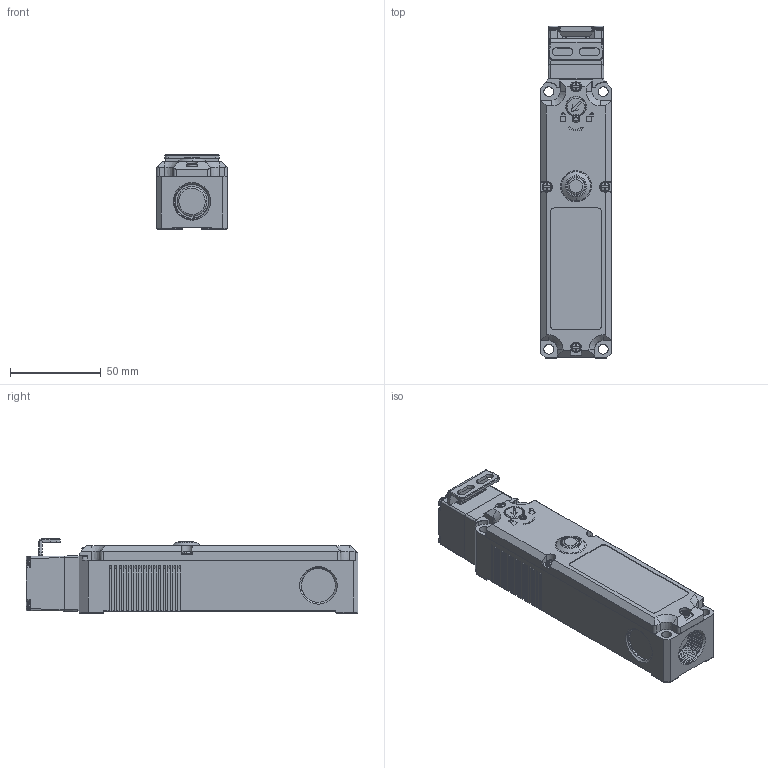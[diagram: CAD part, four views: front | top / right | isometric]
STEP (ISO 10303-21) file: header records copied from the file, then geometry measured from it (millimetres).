
FILE_DESCRIPTION((''),'2;1');
FILE_NAME('ASM-ALL-4YD_ASM_97_ASM_ASM','2022-08-13T',('Administrator'),(''),'PRO/ENGINEER BY PARAMETRIC TECHNOLOGY CORPORATION, 2010280','PRO/ENGINEER BY PARAMETRIC TECHNOLOGY CORPORATION, 2010280','');
FILE_SCHEMA(('CONFIG_CONTROL_DESIGN'));
Products named in the file (14): 4YD-KETI_80; LS25-6_1; WANYAOSHI_7_1_1; LUOSI-3_1_1_1; QIANZUO-NEW_2_2; BEIGAI-NEW_1_1; ASM_TOP_ASM_2_ASM_ASM; LS3-8_1; 4YD-JIESUOXUANNIU_17; BACK-JIESUO_20; 4YD-SHANGGAI_31; LS25-4_3; LED-GAI_1; ASM-ALL-4YD_ASM_97_ASM_ASM
Assembly tree (22 placements, depth 3):
  ASM-ALL-4YD_ASM_97_ASM_ASM
    4YD-KETI_80
    LS25-6_1  x2
    ASM_TOP_ASM_2_ASM_ASM
      WANYAOSHI_7_1_1
      LUOSI-3_1_1_1  x4
      QIANZUO-NEW_2_2
      BEIGAI-NEW_1_1
    LS3-8_1  x6
    4YD-JIESUOXUANNIU_17
    BACK-JIESUO_20
    4YD-SHANGGAI_31
    LS25-4_3
    LED-GAI_1
Bounding box: 39 x 182.99 x 40.98 mm (x, y, z)
Volume: 193512.1 mm3; surface area: 70944.1 mm2
Topology: 21 solids, 28 shells, 2847 faces, 7953 edges, 5219 vertices
Faces by surface type: plane 1667, cylinder 756, cone 172, bspline 123, torus 82, sphere 40, extrusion 7
Entity records: 89008 total; most frequent: CARTESIAN_POINT 27502, ORIENTED_EDGE 13350, DIRECTION 11983, EDGE_CURVE 6675, VECTOR 4611, LINE 4604, VERTEX_POINT 4399, AXIS2_PLACEMENT_3D 3686
